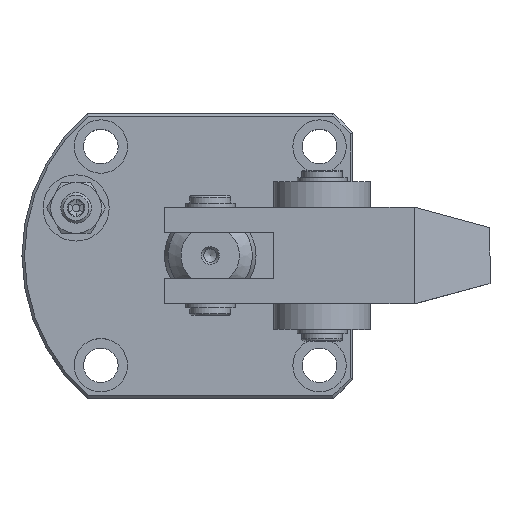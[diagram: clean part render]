
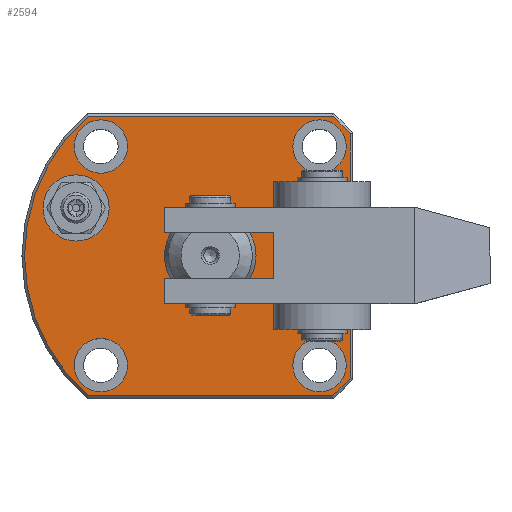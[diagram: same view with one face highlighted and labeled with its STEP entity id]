
A CAD part, top view. The second image highlights one B-rep face of the part: STEP entity #2594.
In plain terms, the highlighted planar face has unit normal (0, 0, 1).
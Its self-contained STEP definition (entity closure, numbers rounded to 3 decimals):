
#257=CIRCLE('',#2862,36.5);
#258=CIRCLE('',#2863,36.5);
#259=CIRCLE('',#2864,36.5);
#260=CIRCLE('',#2865,9.);
#261=CIRCLE('',#2866,5.25);
#262=CIRCLE('',#2867,5.25);
#263=CIRCLE('',#2868,5.25);
#264=CIRCLE('',#2869,5.25);
#265=CIRCLE('',#2870,6.5);
#401=ORIENTED_EDGE('',*,*,#1075,.T.);
#402=ORIENTED_EDGE('',*,*,#1076,.T.);
#403=ORIENTED_EDGE('',*,*,#1077,.F.);
#404=ORIENTED_EDGE('',*,*,#1078,.T.);
#405=ORIENTED_EDGE('',*,*,#1079,.T.);
#406=ORIENTED_EDGE('',*,*,#1080,.T.);
#407=ORIENTED_EDGE('',*,*,#1081,.T.);
#408=ORIENTED_EDGE('',*,*,#1082,.T.);
#409=ORIENTED_EDGE('',*,*,#1083,.T.);
#410=ORIENTED_EDGE('',*,*,#1084,.T.);
#411=ORIENTED_EDGE('',*,*,#1085,.T.);
#412=ORIENTED_EDGE('',*,*,#1086,.T.);
#413=ORIENTED_EDGE('',*,*,#1087,.T.);
#414=ORIENTED_EDGE('',*,*,#1088,.T.);
#415=ORIENTED_EDGE('',*,*,#1089,.T.);
#416=ORIENTED_EDGE('',*,*,#1090,.F.);
#1075=EDGE_CURVE('',#1412,#1413,#1663,.T.);
#1076=EDGE_CURVE('',#1413,#1414,#1664,.T.);
#1077=EDGE_CURVE('',#1415,#1414,#1665,.T.);
#1078=EDGE_CURVE('',#1415,#1416,#1666,.T.);
#1079=EDGE_CURVE('',#1416,#1417,#257,.T.);
#1080=EDGE_CURVE('',#1417,#1418,#1667,.T.);
#1081=EDGE_CURVE('',#1418,#1419,#258,.T.);
#1082=EDGE_CURVE('',#1419,#1420,#1668,.T.);
#1083=EDGE_CURVE('',#1420,#1421,#259,.T.);
#1084=EDGE_CURVE('',#1421,#1412,#1669,.T.);
#1085=EDGE_CURVE('',#1422,#1422,#260,.T.);
#1086=EDGE_CURVE('',#1423,#1423,#261,.T.);
#1087=EDGE_CURVE('',#1424,#1424,#262,.T.);
#1088=EDGE_CURVE('',#1425,#1425,#263,.T.);
#1089=EDGE_CURVE('',#1426,#1426,#264,.T.);
#1090=EDGE_CURVE('',#1427,#1427,#265,.T.);
#1412=VERTEX_POINT('',#3987);
#1413=VERTEX_POINT('',#3988);
#1414=VERTEX_POINT('',#3990);
#1415=VERTEX_POINT('',#3992);
#1416=VERTEX_POINT('',#3994);
#1417=VERTEX_POINT('',#3996);
#1418=VERTEX_POINT('',#3998);
#1419=VERTEX_POINT('',#4000);
#1420=VERTEX_POINT('',#4002);
#1421=VERTEX_POINT('',#4004);
#1422=VERTEX_POINT('',#4007);
#1423=VERTEX_POINT('',#4009);
#1424=VERTEX_POINT('',#4011);
#1425=VERTEX_POINT('',#4013);
#1426=VERTEX_POINT('',#4015);
#1427=VERTEX_POINT('',#4017);
#1663=LINE('',#3986,#1788);
#1664=LINE('',#3989,#1789);
#1665=LINE('',#3991,#1790);
#1666=LINE('',#3993,#1791);
#1667=LINE('',#3997,#1792);
#1668=LINE('',#4001,#1793);
#1669=LINE('',#4005,#1794);
#1788=VECTOR('',#3197,1000.);
#1789=VECTOR('',#3198,1000.);
#1790=VECTOR('',#3199,1000.);
#1791=VECTOR('',#3200,1000.);
#1792=VECTOR('',#3203,1000.);
#1793=VECTOR('',#3206,1000.);
#1794=VECTOR('',#3209,1000.);
#1913=EDGE_LOOP('',(#401,#402,#403,#404,#405,#406,#407,#408,#409,#410));
#1914=EDGE_LOOP('',(#411));
#1915=EDGE_LOOP('',(#412));
#1916=EDGE_LOOP('',(#413));
#1917=EDGE_LOOP('',(#414));
#1918=EDGE_LOOP('',(#415));
#1919=EDGE_LOOP('',(#416));
#2210=FACE_BOUND('',#1913,.T.);
#2211=FACE_BOUND('',#1914,.T.);
#2212=FACE_BOUND('',#1915,.T.);
#2213=FACE_BOUND('',#1916,.T.);
#2214=FACE_BOUND('',#1917,.T.);
#2215=FACE_BOUND('',#1918,.T.);
#2216=FACE_BOUND('',#1919,.T.);
#2508=PLANE('',#2861);
#2594=ADVANCED_FACE('',(#2210,#2211,#2212,#2213,#2214,#2215,#2216),#2508,
 .T.);
#2861=AXIS2_PLACEMENT_3D('',#3985,#3195,#3196);
#2862=AXIS2_PLACEMENT_3D('',#3995,#3201,#3202);
#2863=AXIS2_PLACEMENT_3D('',#3999,#3204,#3205);
#2864=AXIS2_PLACEMENT_3D('',#4003,#3207,#3208);
#2865=AXIS2_PLACEMENT_3D('',#4006,#3210,#3211);
#2866=AXIS2_PLACEMENT_3D('',#4008,#3212,#3213);
#2867=AXIS2_PLACEMENT_3D('',#4010,#3214,#3215);
#2868=AXIS2_PLACEMENT_3D('',#4012,#3216,#3217);
#2869=AXIS2_PLACEMENT_3D('',#4014,#3218,#3219);
#2870=AXIS2_PLACEMENT_3D('',#4016,#3220,#3221);
#3195=DIRECTION('',(0.,0.,1.));
#3196=DIRECTION('',(0.,-1.,0.));
#3197=DIRECTION('',(-1.,0.,0.));
#3198=DIRECTION('',(0.,1.,0.));
#3199=DIRECTION('',(-1.,0.,0.));
#3200=DIRECTION('',(0.,1.,0.));
#3201=DIRECTION('',(0.,0.,1.));
#3202=DIRECTION('',(0.,-1.,0.));
#3203=DIRECTION('',(-1.,0.,0.));
#3204=DIRECTION('',(0.,0.,1.));
#3205=DIRECTION('',(0.,-1.,0.));
#3206=DIRECTION('',(1.,0.,0.));
#3207=DIRECTION('',(0.,0.,1.));
#3208=DIRECTION('',(0.,-1.,0.));
#3209=DIRECTION('',(0.,1.,0.));
#3210=DIRECTION('',(0.,0.,-1.));
#3211=DIRECTION('',(0.,-1.,0.));
#3212=DIRECTION('',(0.,0.,-1.));
#3213=DIRECTION('',(0.,-1.,0.));
#3214=DIRECTION('',(0.,0.,-1.));
#3215=DIRECTION('',(0.,-1.,0.));
#3216=DIRECTION('',(0.,0.,-1.));
#3217=DIRECTION('',(0.,-1.,0.));
#3218=DIRECTION('',(0.,0.,-1.));
#3219=DIRECTION('',(0.,-1.,0.));
#3220=DIRECTION('',(0.,0.,1.));
#3221=DIRECTION('',(1.,0.,0.));
#3985=CARTESIAN_POINT('',(-9.25,29.,15.));
#3986=CARTESIAN_POINT('',(4.75,19.5,15.));
#3987=CARTESIAN_POINT('',(18.25,19.5,15.));
#3988=CARTESIAN_POINT('',(4.75,19.5,15.));
#3989=CARTESIAN_POINT('',(4.75,19.5,15.));
#3990=CARTESIAN_POINT('',(4.75,38.5,15.));
#3991=CARTESIAN_POINT('',(4.75,38.5,15.));
#3992=CARTESIAN_POINT('',(18.25,38.5,15.));
#3993=CARTESIAN_POINT('',(18.25,29.,15.));
#3994=CARTESIAN_POINT('',(18.25,53.,15.));
#3995=CARTESIAN_POINT('',(-9.25,29.,15.));
#3996=CARTESIAN_POINT('',(14.75,56.5,15.));
#3997=CARTESIAN_POINT('',(-9.25,56.5,15.));
#3998=CARTESIAN_POINT('',(-33.25,56.5,15.));
#3999=CARTESIAN_POINT('',(-9.25,29.,15.));
#4000=CARTESIAN_POINT('',(-33.25,1.5,15.));
#4001=CARTESIAN_POINT('',(-9.25,1.5,15.));
#4002=CARTESIAN_POINT('',(14.75,1.5,15.));
#4003=CARTESIAN_POINT('',(-9.25,29.,15.));
#4004=CARTESIAN_POINT('',(18.25,5.,15.));
#4005=CARTESIAN_POINT('',(18.25,29.,15.));
#4006=CARTESIAN_POINT('',(-9.25,29.,15.));
#4007=CARTESIAN_POINT('',(-9.25,20.,15.));
#4008=CARTESIAN_POINT('',(12.25,7.5,15.));
#4009=CARTESIAN_POINT('',(12.25,2.25,15.));
#4010=CARTESIAN_POINT('',(12.25,50.5,15.));
#4011=CARTESIAN_POINT('',(12.25,45.25,15.));
#4012=CARTESIAN_POINT('',(-30.75,50.5,15.));
#4013=CARTESIAN_POINT('',(-30.75,45.25,15.));
#4014=CARTESIAN_POINT('',(-30.75,7.5,15.));
#4015=CARTESIAN_POINT('',(-30.75,2.25,15.));
#4016=CARTESIAN_POINT('',(-35.62,38.42,15.));
#4017=CARTESIAN_POINT('',(-29.12,38.42,15.));
